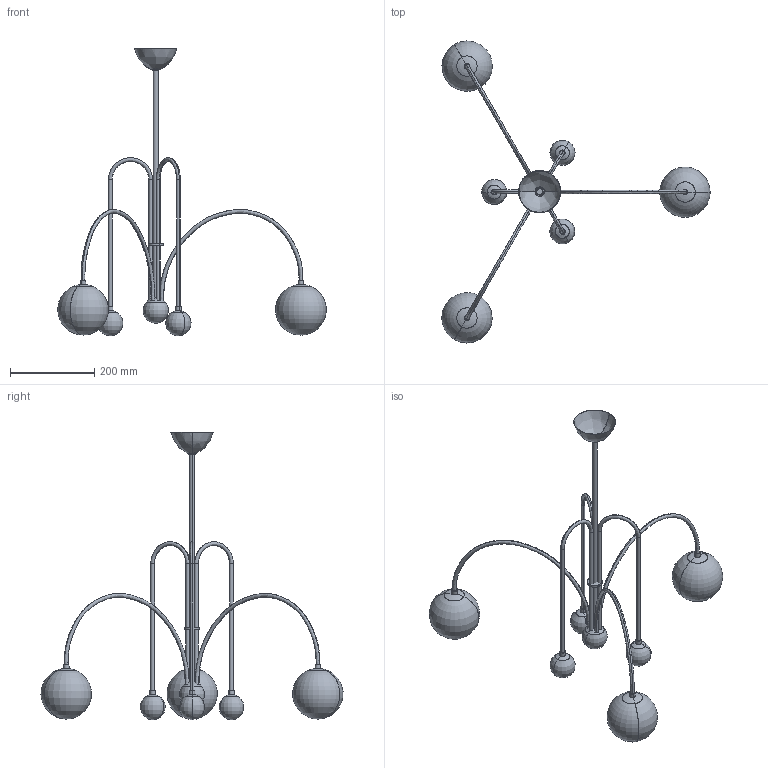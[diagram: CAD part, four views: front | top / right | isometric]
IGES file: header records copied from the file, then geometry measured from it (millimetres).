
Start section: SolidWorks IGES file using analytic representation for surfaces
Global section: file name: F:\燠隴矨\3D\5-4\Gran Finale Suspension.IGS,15; native system: HSolidWorks 2022; preprocessor: SolidWorks 2022; author: MyPC; date: 230504.110525; units: millimetre
Bounding box: 636.54 x 716.14 x 682 mm (x, y, z)
Surface area: 367102.5 mm2 (no closed solid volume)
Topology: 0 solids, 0 shells, 123 faces, 2524 edges, 2510 vertices
Faces by surface type: bspline 67, revolution 56
